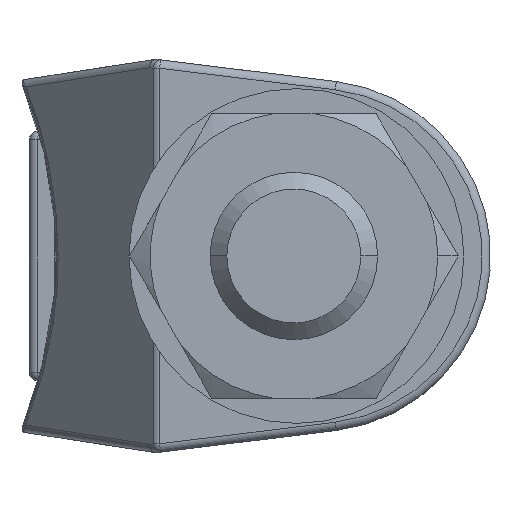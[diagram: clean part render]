
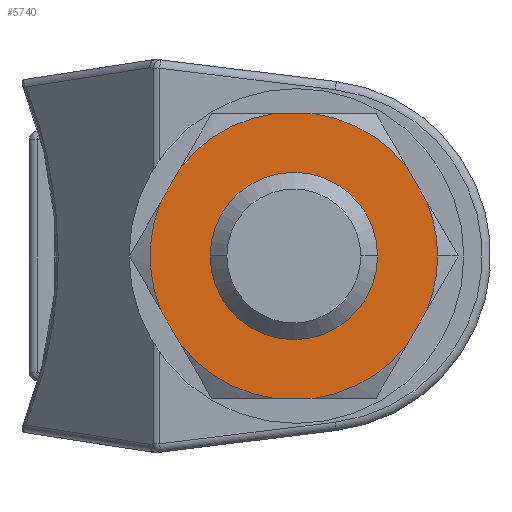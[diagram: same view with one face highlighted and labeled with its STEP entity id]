
A CAD part, front view. The second image highlights one B-rep face of the part: STEP entity #5740.
In plain terms, the highlighted planar face has unit normal (0, -1, 0).
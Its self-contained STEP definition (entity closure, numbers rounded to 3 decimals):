
#4983=CARTESIAN_POINT('',(-1.241,-6.35,2.15));
#4984=DIRECTION('',(0.,1.,0.));
#4985=DIRECTION('',(0.928,0.,0.373));
#4986=AXIS2_PLACEMENT_3D('',#4983,#4984,#4985);
#4991=CARTESIAN_POINT('',(-1.241,-6.35,
2.15));
#4992=DIRECTION('',(0.,1.,0.));
#4993=DIRECTION('',(1.,0.,0.));
#4994=AXIS2_PLACEMENT_3D('',#4991,#4992,#4993);
#4999=DIRECTION('',(-0.5,0.,-0.866));
#5000=VECTOR('',#4999,2.41);
#5001=CARTESIAN_POINT('',(6.722,-6.35,
-1.056));
#5002=LINE('',#5001,#5000);
#5006=CARTESIAN_POINT('',(-1.241,-6.35,
2.15));
#5007=DIRECTION('',(0.,1.,0.));
#5008=DIRECTION('',(0.787,0.,-0.617));
#5009=AXIS2_PLACEMENT_3D('',#5006,#5007,#5008);
#5014=CARTESIAN_POINT('',(-1.241,-6.35,
2.15));
#5015=DIRECTION('',(0.,1.,0.));
#5016=DIRECTION('',(-0.14,0.,-0.99));
#5017=AXIS2_PLACEMENT_3D('',#5014,#5015,#5016);
#5022=DIRECTION('',(-0.5,0.,0.866));
#5023=VECTOR('',#5022,2.41);
#5024=CARTESIAN_POINT('',(-8.,-6.35,
-3.144));
#5025=LINE('',#5024,#5023);
#5029=CARTESIAN_POINT('',(-1.241,-6.35,2.15));
#5030=DIRECTION('',(0.,1.,0.));
#5031=DIRECTION('',(-0.928,0.,-0.373));
#5032=AXIS2_PLACEMENT_3D('',#5029,#5030,#5031);
#5037=DIRECTION('',(0.5,0.,0.866));
#5038=VECTOR('',#5037,2.41);
#5039=CARTESIAN_POINT('',(-9.205,-6.35,
5.356));
#5040=LINE('',#5039,#5038);
#5044=CARTESIAN_POINT('',(-1.241,-6.35,
2.15));
#5045=DIRECTION('',(0.,1.,0.));
#5046=DIRECTION('',(-0.787,0.,0.617));
#5047=AXIS2_PLACEMENT_3D('',#5044,#5045,#5046);
#5052=CARTESIAN_POINT('',(-1.241,-6.35,
2.15));
#5053=DIRECTION('',(0.,1.,0.));
#5054=DIRECTION('',(0.14,0.,0.99));
#5055=AXIS2_PLACEMENT_3D('',#5052,#5053,#5054);
#5060=DIRECTION('',(0.5,0.,-0.866));
#5061=VECTOR('',#5060,2.41);
#5062=CARTESIAN_POINT('',(5.517,-6.35,7.444));
#5063=LINE('',#5062,#5061);
#5067=CARTESIAN_POINT('',(-1.241,-6.35,2.15));
#5068=DIRECTION('',(0.,-1.,0.));
#5069=DIRECTION('',(-1.,0.,0.));
#5070=AXIS2_PLACEMENT_3D('',#5067,#5068,#5069);
#5075=CARTESIAN_POINT('',(-1.241,-6.35,2.15));
#5076=DIRECTION('',(0.,-1.,0.));
#5077=DIRECTION('',(1.,0.,0.));
#5078=AXIS2_PLACEMENT_3D('',#5075,#5076,#5077);
#5264=DIRECTION('',(-1.,0.,0.));
#5265=VECTOR('',#5264,2.41);
#5266=CARTESIAN_POINT('',(-0.036,-6.35,
10.65));
#5267=LINE('',#5266,#5265);
#5461=DIRECTION('',(1.,0.,0.));
#5462=VECTOR('',#5461,2.41);
#5463=CARTESIAN_POINT('',(-2.446,-6.35,
-6.35));
#5464=LINE('',#5463,#5462);
#5605=CARTESIAN_POINT('',(6.722,-6.35,5.356));
#5606=CARTESIAN_POINT('',(7.344,-6.35,2.15));
#5607=VERTEX_POINT('',#5605);
#5608=VERTEX_POINT('',#5606);
#5609=CARTESIAN_POINT('',(6.722,-6.35,
-1.056));
#5610=VERTEX_POINT('',#5609);
#5611=CARTESIAN_POINT('',(5.517,-6.35,
-3.144));
#5612=VERTEX_POINT('',#5611);
#5613=CARTESIAN_POINT('',(-0.036,-6.35,
-6.35));
#5614=VERTEX_POINT('',#5613);
#5615=CARTESIAN_POINT('',(-2.446,-6.35,
-6.35));
#5616=CARTESIAN_POINT('',(-8.,-6.35,
-3.144));
#5617=VERTEX_POINT('',#5615);
#5618=VERTEX_POINT('',#5616);
#5619=CARTESIAN_POINT('',(-9.205,-6.35,
-1.056));
#5620=VERTEX_POINT('',#5619);
#5621=CARTESIAN_POINT('',(-9.205,-6.35,
5.356));
#5622=VERTEX_POINT('',#5621);
#5623=CARTESIAN_POINT('',(-8.,-6.35,
7.444));
#5624=VERTEX_POINT('',#5623);
#5625=CARTESIAN_POINT('',(-2.446,-6.35,10.65));
#5626=VERTEX_POINT('',#5625);
#5627=CARTESIAN_POINT('',(-0.036,-6.35,
10.65));
#5628=CARTESIAN_POINT('',(5.517,-6.35,7.444));
#5629=VERTEX_POINT('',#5627);
#5630=VERTEX_POINT('',#5628);
#5631=CARTESIAN_POINT('',(-6.241,-6.35,2.15));
#5632=CARTESIAN_POINT('',(3.759,-6.35,2.15));
#5633=VERTEX_POINT('',#5631);
#5634=VERTEX_POINT('',#5632);
#5702=CARTESIAN_POINT('',(-1.242,-6.35,2.15));
#5703=DIRECTION('',(0.,1.,0.));
#5704=DIRECTION('',(0.,0.,1.));
#5705=AXIS2_PLACEMENT_3D('',#5702,#5703,#5704);
#5706=PLANE('',#5705);
#5708=ORIENTED_EDGE('',*,*,#5707,.T.);
#5710=ORIENTED_EDGE('',*,*,#5709,.T.);
#5712=ORIENTED_EDGE('',*,*,#5711,.T.);
#5714=ORIENTED_EDGE('',*,*,#5713,.T.);
#5716=ORIENTED_EDGE('',*,*,#5715,.F.);
#5718=ORIENTED_EDGE('',*,*,#5717,.T.);
#5720=ORIENTED_EDGE('',*,*,#5719,.T.);
#5722=ORIENTED_EDGE('',*,*,#5721,.T.);
#5724=ORIENTED_EDGE('',*,*,#5723,.T.);
#5726=ORIENTED_EDGE('',*,*,#5725,.T.);
#5728=ORIENTED_EDGE('',*,*,#5727,.F.);
#5730=ORIENTED_EDGE('',*,*,#5729,.T.);
#5732=ORIENTED_EDGE('',*,*,#5731,.T.);
#5733=EDGE_LOOP('',(#5708,#5710,#5712,#5714,#5716,#5718,#5720,#5722,#5724,#5726,
#5728,#5730,#5732));
#5734=FACE_OUTER_BOUND('',#5733,.F.);
#5736=ORIENTED_EDGE('',*,*,#5735,.T.);
#5737=ORIENTED_EDGE('',*,*,#5691,.T.);
#5738=EDGE_LOOP('',(#5736,#5737));
#5739=FACE_BOUND('',#5738,.F.);
#4987=CIRCLE('',#4986,8.585);
#4995=CIRCLE('',#4994,8.585);
#5010=CIRCLE('',#5009,8.585);
#5018=CIRCLE('',#5017,8.585);
#5033=CIRCLE('',#5032,8.585);
#5048=CIRCLE('',#5047,8.585);
#5056=CIRCLE('',#5055,8.585);
#5071=CIRCLE('',#5070,5.);
#5079=CIRCLE('',#5078,5.);
#5691=EDGE_CURVE('',#5634,#5633,#5079,.T.);
#5707=EDGE_CURVE('',#5607,#5608,#4987,.T.);
#5709=EDGE_CURVE('',#5608,#5610,#4995,.T.);
#5711=EDGE_CURVE('',#5610,#5612,#5002,.T.);
#5713=EDGE_CURVE('',#5612,#5614,#5010,.T.);
#5715=EDGE_CURVE('',#5617,#5614,#5464,.T.);
#5717=EDGE_CURVE('',#5617,#5618,#5018,.T.);
#5719=EDGE_CURVE('',#5618,#5620,#5025,.T.);
#5721=EDGE_CURVE('',#5620,#5622,#5033,.T.);
#5723=EDGE_CURVE('',#5622,#5624,#5040,.T.);
#5725=EDGE_CURVE('',#5624,#5626,#5048,.T.);
#5727=EDGE_CURVE('',#5629,#5626,#5267,.T.);
#5729=EDGE_CURVE('',#5629,#5630,#5056,.T.);
#5731=EDGE_CURVE('',#5630,#5607,#5063,.T.);
#5735=EDGE_CURVE('',#5633,#5634,#5071,.T.);
#5740=ADVANCED_FACE('',(#5734,#5739),#5706,.F.);
